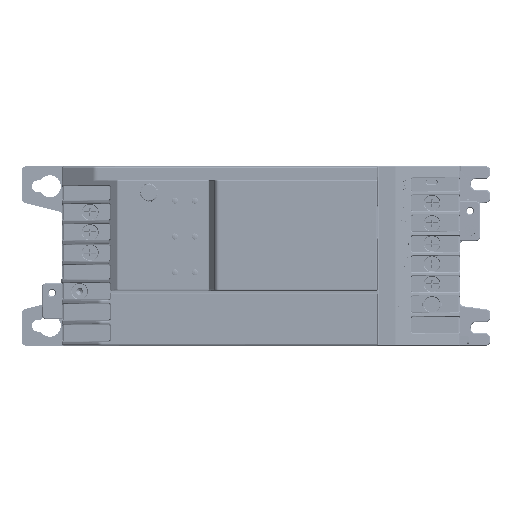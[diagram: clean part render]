
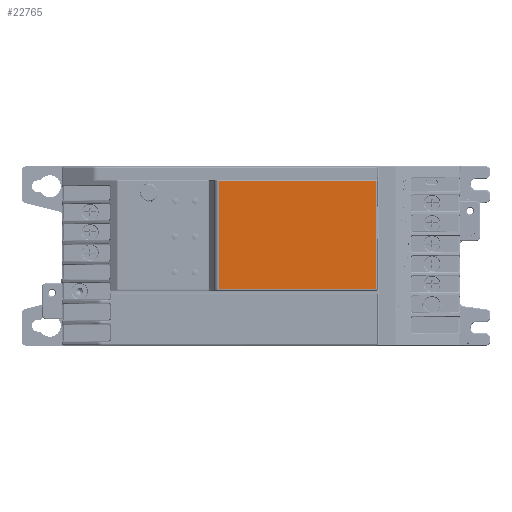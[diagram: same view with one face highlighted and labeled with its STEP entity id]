
A CAD part, left-side view. The second image highlights one B-rep face of the part: STEP entity #22765.
In plain terms, the highlighted planar face has unit normal (-1, 0, 0).
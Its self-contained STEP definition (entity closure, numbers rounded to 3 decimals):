
#18288=CARTESIAN_POINT('',(-120.,-57.7,82.4));
#18289=DIRECTION('',(1.,0.,0.));
#18290=DIRECTION('',(0.,0.,1.));
#18291=AXIS2_PLACEMENT_3D('',#18288,#18289,#18290);
#18293=CARTESIAN_POINT('',(-120.,-57.7,28.5));
#18294=DIRECTION('',(1.,0.,0.));
#18295=DIRECTION('',(0.,-1.,0.));
#18296=AXIS2_PLACEMENT_3D('',#18293,#18294,#18295);
#18298=DIRECTION('',(0.,1.,0.));
#18299=VECTOR('',#18298,78.75);
#18300=CARTESIAN_POINT('',(-120.,-57.7,82.7));
#18301=LINE('',#18300,#18299);
#18321=DIRECTION('',(0.,0.,-1.));
#18322=VECTOR('',#18321,54.5);
#18323=CARTESIAN_POINT('',(-120.,21.05,82.7));
#18324=LINE('',#18323,#18322);
#18344=DIRECTION('',(0.,-1.,0.));
#18345=VECTOR('',#18344,78.75);
#18346=CARTESIAN_POINT('',(-120.,21.05,28.2));
#18347=LINE('',#18346,#18345);
#18367=DIRECTION('',(0.,0.,1.));
#18368=VECTOR('',#18367,53.9);
#18369=CARTESIAN_POINT('',(-120.,-58.,28.5));
#18370=LINE('',#18369,#18368);
#21909=CARTESIAN_POINT('',(-120.,-57.7,82.7));
#21910=CARTESIAN_POINT('',(-120.,-58.,82.4));
#21911=VERTEX_POINT('',#21909);
#21912=VERTEX_POINT('',#21910);
#21913=CARTESIAN_POINT('',(-120.,21.05,82.7));
#21914=VERTEX_POINT('',#21913);
#21915=CARTESIAN_POINT('',(-120.,-58.,28.5));
#21916=VERTEX_POINT('',#21915);
#21917=CARTESIAN_POINT('',(-120.,-57.7,28.2));
#21918=VERTEX_POINT('',#21917);
#21919=CARTESIAN_POINT('',(-120.,21.05,28.2));
#21920=VERTEX_POINT('',#21919);
#22747=CARTESIAN_POINT('',(-120.,-18.475,55.45));
#22748=DIRECTION('',(1.,0.,0.));
#22749=DIRECTION('',(0.,-1.,0.));
#22750=AXIS2_PLACEMENT_3D('',#22747,#22748,#22749);
#22751=PLANE('',#22750);
#22753=ORIENTED_EDGE('',*,*,#22752,.F.);
#22754=ORIENTED_EDGE('',*,*,#22737,.T.);
#22756=ORIENTED_EDGE('',*,*,#22755,.F.);
#22758=ORIENTED_EDGE('',*,*,#22757,.T.);
#22760=ORIENTED_EDGE('',*,*,#22759,.F.);
#22762=ORIENTED_EDGE('',*,*,#22761,.F.);
#22763=EDGE_LOOP('',(#22753,#22754,#22756,#22758,#22760,#22762));
#22764=FACE_OUTER_BOUND('',#22763,.F.);
#22765=ADVANCED_FACE('',(#22764),#22751,.F.);
#18292=CIRCLE('',#18291,0.3);
#18297=CIRCLE('',#18296,0.3);
#22737=EDGE_CURVE('',#21911,#21912,#18292,.T.);
#22752=EDGE_CURVE('',#21911,#21914,#18301,.T.);
#22755=EDGE_CURVE('',#21916,#21912,#18370,.T.);
#22757=EDGE_CURVE('',#21916,#21918,#18297,.T.);
#22759=EDGE_CURVE('',#21920,#21918,#18347,.T.);
#22761=EDGE_CURVE('',#21914,#21920,#18324,.T.);
